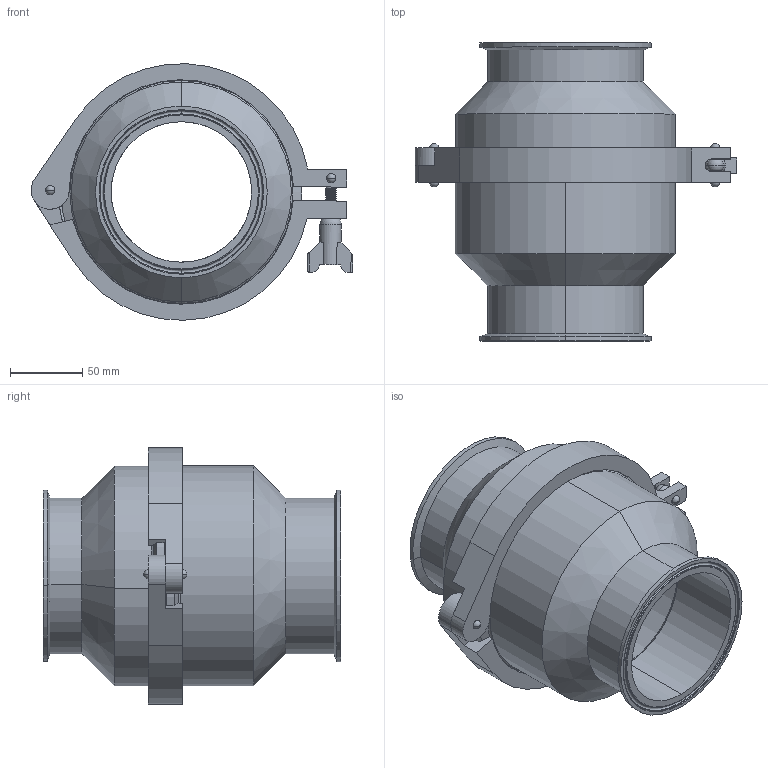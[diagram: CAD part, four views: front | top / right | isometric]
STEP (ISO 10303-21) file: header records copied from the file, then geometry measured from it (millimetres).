
FILE_DESCRIPTION (( 'STEP AP203' ), '1' );
FILE_NAME ('45C-6 4.0.STEP', '2019-11-14T20:40:32', ( 'vneprd' ), ( 'Microsoft' ), 'SwSTEP 2.0', 'SolidWorks 2018', '' );
FILE_SCHEMA (( 'CONFIG_CONTROL_DESIGN' ));
Length unit declared in the file: inch
Products named in the file (1): 45C-6 4.0
Bounding box: 222.91 x 206.38 x 177.71 mm (x, y, z)
Volume: 579799.7 mm3; surface area: 277979.5 mm2
Topology: 9 solids, 9 shells, 292 faces, 706 edges, 441 vertices
Faces by surface type: cylinder 135, plane 59, cone 41, torus 40, sphere 14, bspline 3
Entity records: 13572 total; most frequent: CARTESIAN_POINT 6878, DIRECTION 1418, ORIENTED_EDGE 1404, EDGE_CURVE 702, AXIS2_PLACEMENT_3D 577, VERTEX_POINT 439, EDGE_LOOP 321, FACE_OUTER_BOUND 292
